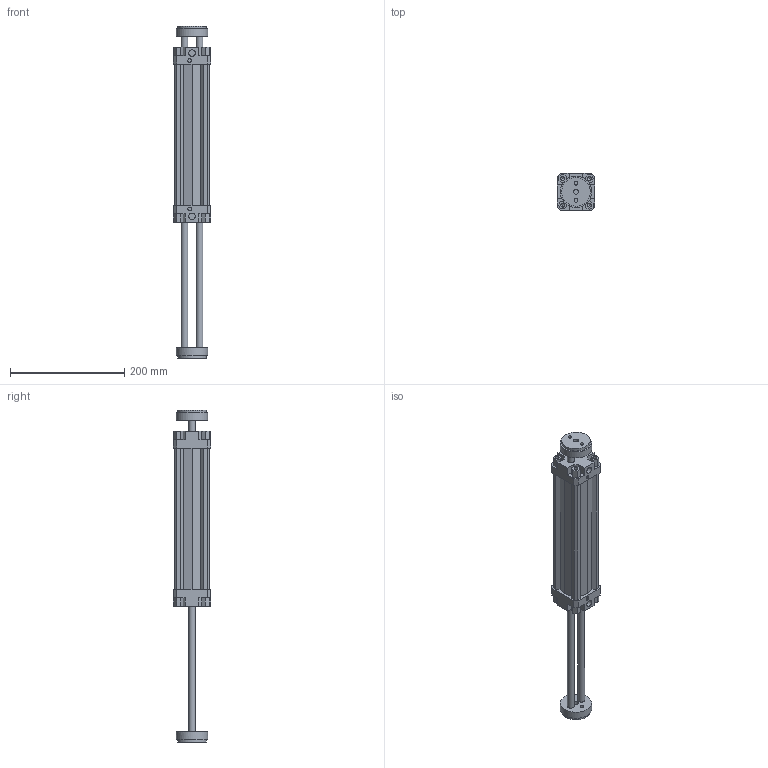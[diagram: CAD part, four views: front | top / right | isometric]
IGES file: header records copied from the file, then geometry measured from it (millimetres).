
Global section: file name: 132#_050_0200_06; native system: Autodesk Inventor 2014; preprocessor: unknown; author: A. Manieri; date: 20161006.155745; units: millimetre
Bounding box: 65 x 65 x 580 mm (x, y, z)
Volume: 746795.9 mm3; surface area: 209869 mm2
Topology: 2 solids, 2 shells, 190 faces, 518 edges, 354 vertices
Faces by surface type: bspline 190
